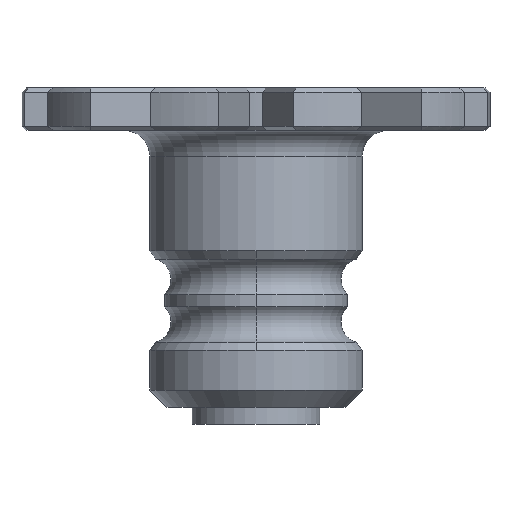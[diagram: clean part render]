
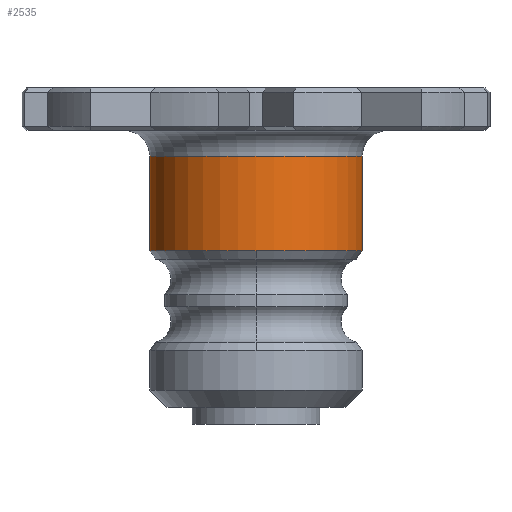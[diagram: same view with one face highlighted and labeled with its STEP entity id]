
A CAD part, front view. The second image highlights one B-rep face of the part: STEP entity #2535.
In plain terms, the highlighted cylindrical face has radius 2.5 mm (diameter 5 mm), a partial arc.
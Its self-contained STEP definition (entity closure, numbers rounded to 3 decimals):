
#153=CARTESIAN_POINT('',(0.,0.,3.671));
#154=DIRECTION('',(0.,0.,1.));
#155=DIRECTION('',(0.,-1.,0.));
#156=AXIS2_PLACEMENT_3D('',#153,#154,#155);
#162=CARTESIAN_POINT('',(0.,0.,5.9));
#163=DIRECTION('',(0.,0.,1.));
#164=DIRECTION('',(-1.,0.,0.));
#165=AXIS2_PLACEMENT_3D('',#162,#163,#164);
#167=DIRECTION('',(0.,0.,-1.));
#168=VECTOR('',#167,2.229);
#169=CARTESIAN_POINT('',(2.5,0.,5.9));
#170=LINE('',#169,#168);
#176=CARTESIAN_POINT('',(0.,0.,3.671));
#177=DIRECTION('',(0.,0.,1.));
#178=DIRECTION('',(-1.,0.,0.));
#179=AXIS2_PLACEMENT_3D('',#176,#177,#178);
#190=DIRECTION('',(0.,0.,-1.));
#191=VECTOR('',#190,2.229);
#192=CARTESIAN_POINT('',(-2.5,0.,5.9));
#193=LINE('',#192,#191);
#2119=CARTESIAN_POINT('',(-2.5,0.,5.9));
#2120=VERTEX_POINT('',#2119);
#2121=CARTESIAN_POINT('',(2.5,0.,5.9));
#2122=VERTEX_POINT('',#2121);
#2305=CARTESIAN_POINT('',(2.5,0.,3.671));
#2306=CARTESIAN_POINT('',(-2.5,0.,3.671));
#2307=VERTEX_POINT('',#2305);
#2308=VERTEX_POINT('',#2306);
#2313=CARTESIAN_POINT('',(0.,-2.5,3.671));
#2314=VERTEX_POINT('',#2313);
#2519=CARTESIAN_POINT('',(0.,0.,0.));
#2520=DIRECTION('',(0.,0.,1.));
#2521=DIRECTION('',(1.,0.,0.));
#2522=AXIS2_PLACEMENT_3D('',#2519,#2520,#2521);
#2523=CYLINDRICAL_SURFACE('',#2522,2.5);
#2525=ORIENTED_EDGE('',*,*,#2524,.F.);
#2527=ORIENTED_EDGE('',*,*,#2526,.F.);
#2529=ORIENTED_EDGE('',*,*,#2528,.T.);
#2531=ORIENTED_EDGE('',*,*,#2530,.T.);
#2532=ORIENTED_EDGE('',*,*,#2509,.F.);
#2533=EDGE_LOOP('',(#2525,#2527,#2529,#2531,#2532));
#2534=FACE_OUTER_BOUND('',#2533,.F.);
#2535=ADVANCED_FACE('',(#2534),#2523,.T.);
#157=CIRCLE('',#156,2.5);
#166=CIRCLE('',#165,2.5);
#180=CIRCLE('',#179,2.5);
#2509=EDGE_CURVE('',#2314,#2307,#157,.T.);
#2524=EDGE_CURVE('',#2308,#2314,#180,.T.);
#2526=EDGE_CURVE('',#2120,#2308,#193,.T.);
#2528=EDGE_CURVE('',#2120,#2122,#166,.T.);
#2530=EDGE_CURVE('',#2122,#2307,#170,.T.);
